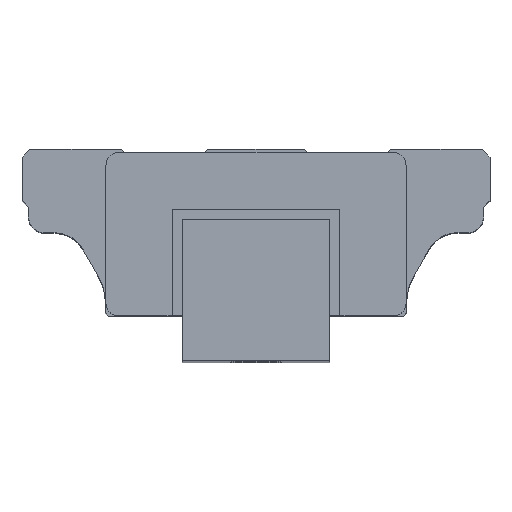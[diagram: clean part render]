
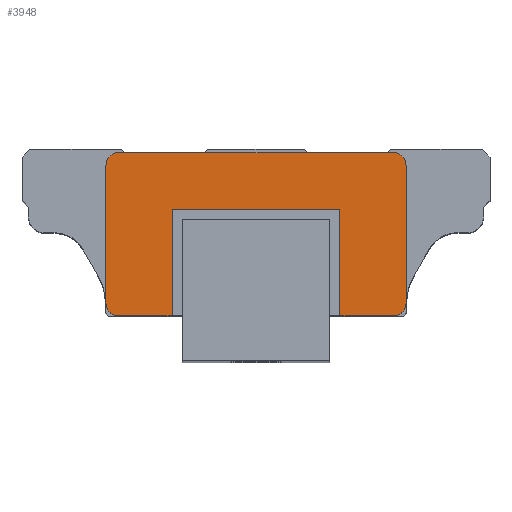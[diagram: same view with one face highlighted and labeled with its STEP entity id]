
A CAD part, top view. The second image highlights one B-rep face of the part: STEP entity #3948.
In plain terms, the highlighted planar face has unit normal (0, 0, 1).
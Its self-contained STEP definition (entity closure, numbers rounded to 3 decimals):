
#3422=CARTESIAN_POINT('',(25.0,7.0,151.5));
#3423=VERTEX_POINT('',#3422);
#3424=CARTESIAN_POINT('',(25.0,23.6,151.5));
#3425=VERTEX_POINT('',#3424);
#3426=CARTESIAN_POINT('',(25.0,7.0,151.5));
#3427=DIRECTION('',(0.0,1.0,0.0));
#3428=VECTOR('',#3427,1.0);
#3429=LINE('',#3426,#3428);
#3430=EDGE_CURVE('',#3423,#3425,#3429,.T.);
#3564=CARTESIAN_POINT('',(-1.2,23.6,151.5));
#3565=VERTEX_POINT('',#3564);
#3566=CARTESIAN_POINT('',(-1.2,7.0,151.5));
#3567=VERTEX_POINT('',#3566);
#3568=CARTESIAN_POINT('',(-1.2,23.6,151.5));
#3569=DIRECTION('',(0.0,-1.0,0.0));
#3570=VECTOR('',#3569,1.0);
#3571=LINE('',#3568,#3570);
#3572=EDGE_CURVE('',#3565,#3567,#3571,.T.);
#3604=CARTESIAN_POINT('',(25.0,23.6,151.5));
#3605=DIRECTION('',(-1.0,0.0,0.0));
#3606=VECTOR('',#3605,1.0);
#3607=LINE('',#3604,#3606);
#3608=EDGE_CURVE('',#3425,#3565,#3607,.T.);
#3652=CARTESIAN_POINT('',(33.3,32.5,151.5));
#3653=VERTEX_POINT('',#3652);
#3654=CARTESIAN_POINT('',(35.3,30.5,151.5));
#3655=VERTEX_POINT('',#3654);
#3656=CARTESIAN_POINT('',(33.3,30.5,151.5));
#3657=DIRECTION('',(0.,0.,-1.0));
#3658=DIRECTION('',(0.,1.0,0.));
#3659=AXIS2_PLACEMENT_3D('',#3656,#3657,#3658);
#3660=CIRCLE('',#3659,2.);
#3661=EDGE_CURVE('',#3653,#3655,#3660,.T.);
#3694=CARTESIAN_POINT('',(35.3,9.0,151.5));
#3695=VERTEX_POINT('',#3694);
#3696=CARTESIAN_POINT('',(35.3,30.5,151.5));
#3697=DIRECTION('',(0.0,-1.0,0.0));
#3698=VECTOR('',#3697,1.0);
#3699=LINE('',#3696,#3698);
#3700=EDGE_CURVE('',#3655,#3695,#3699,.T.);
#3725=CARTESIAN_POINT('',(33.3,7.0,151.5));
#3726=VERTEX_POINT('',#3725);
#3727=CARTESIAN_POINT('',(33.3,9.,151.5));
#3728=DIRECTION('',(0.0,0.0,-1.0));
#3729=DIRECTION('',(1.0,0.0,0.0));
#3730=AXIS2_PLACEMENT_3D('',#3727,#3728,#3729);
#3731=CIRCLE('',#3730,2.);
#3732=EDGE_CURVE('',#3695,#3726,#3731,.T.);
#3758=CARTESIAN_POINT('',(33.3,7.0,151.5));
#3759=DIRECTION('',(-1.0,0.0,0.0));
#3760=VECTOR('',#3759,1.0);
#3761=LINE('',#3758,#3760);
#3762=EDGE_CURVE('',#3726,#3423,#3761,.T.);
#3782=CARTESIAN_POINT('',(-9.5,7.0,151.5));
#3783=VERTEX_POINT('',#3782);
#3784=CARTESIAN_POINT('',(-1.2,7.0,151.5));
#3785=DIRECTION('',(-1.0,0.0,0.0));
#3786=VECTOR('',#3785,1.);
#3787=LINE('',#3784,#3786);
#3788=EDGE_CURVE('',#3567,#3783,#3787,.T.);
#3815=CARTESIAN_POINT('',(-11.5,9.0,151.5));
#3816=VERTEX_POINT('',#3815);
#3817=CARTESIAN_POINT('',(-9.5,9.,151.5));
#3818=DIRECTION('',(0.,0.,-1.0));
#3819=DIRECTION('',(0.0,-1.0,0.));
#3820=AXIS2_PLACEMENT_3D('',#3817,#3818,#3819);
#3821=CIRCLE('',#3820,2.0);
#3822=EDGE_CURVE('',#3783,#3816,#3821,.T.);
#3848=CARTESIAN_POINT('',(-11.5,30.5,151.5));
#3849=VERTEX_POINT('',#3848);
#3850=CARTESIAN_POINT('',(-11.5,9.0,151.5));
#3851=DIRECTION('',(0.0,1.0,0.0));
#3852=VECTOR('',#3851,1.0);
#3853=LINE('',#3850,#3852);
#3854=EDGE_CURVE('',#3816,#3849,#3853,.T.);
#3879=CARTESIAN_POINT('',(-9.5,32.5,151.5));
#3880=VERTEX_POINT('',#3879);
#3881=CARTESIAN_POINT('',(-9.5,30.5,151.5));
#3882=DIRECTION('',(0.,0.,-1.0));
#3883=DIRECTION('',(-1.0,0.,0.));
#3884=AXIS2_PLACEMENT_3D('',#3881,#3882,#3883);
#3885=CIRCLE('',#3884,2.);
#3886=EDGE_CURVE('',#3849,#3880,#3885,.T.);
#3912=CARTESIAN_POINT('',(-9.5,32.5,151.5));
#3913=DIRECTION('',(1.0,0.0,0.0));
#3914=VECTOR('',#3913,1.0);
#3915=LINE('',#3912,#3914);
#3916=EDGE_CURVE('',#3880,#3653,#3915,.T.);
#3929=CARTESIAN_POINT('',(-13.84,5.725,151.5));
#3930=DIRECTION('',(0.0,0.0,1.0));
#3931=DIRECTION('',(1.0,0.0,0.0));
#3932=AXIS2_PLACEMENT_3D('',#3929,#3930,#3931);
#3933=PLANE('',#3932);
#3934=ORIENTED_EDGE('',*,*,#3661,.F.);
#3935=ORIENTED_EDGE('',*,*,#3916,.F.);
#3936=ORIENTED_EDGE('',*,*,#3886,.F.);
#3937=ORIENTED_EDGE('',*,*,#3854,.F.);
#3938=ORIENTED_EDGE('',*,*,#3822,.F.);
#3939=ORIENTED_EDGE('',*,*,#3788,.F.);
#3940=ORIENTED_EDGE('',*,*,#3572,.F.);
#3941=ORIENTED_EDGE('',*,*,#3608,.F.);
#3942=ORIENTED_EDGE('',*,*,#3430,.F.);
#3943=ORIENTED_EDGE('',*,*,#3762,.F.);
#3944=ORIENTED_EDGE('',*,*,#3732,.F.);
#3945=ORIENTED_EDGE('',*,*,#3700,.F.);
#3946=EDGE_LOOP('',(#3934,#3935,#3936,#3937,#3938,#3939,#3940,#3941,#3942,#3943,#3944,#3945));
#3947=FACE_OUTER_BOUND('',#3946,.T.);
#3948=ADVANCED_FACE('',(#3947),#3933,.T.);
